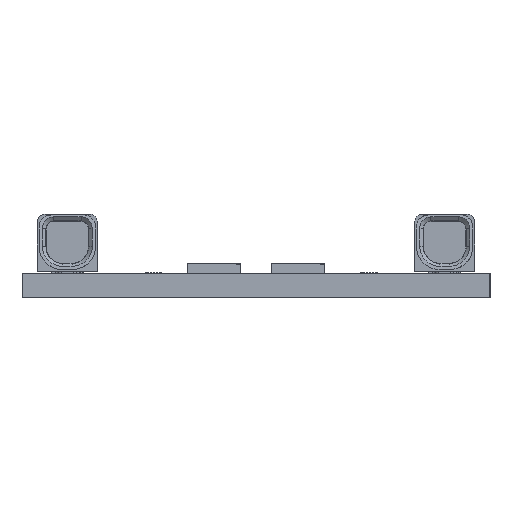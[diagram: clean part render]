
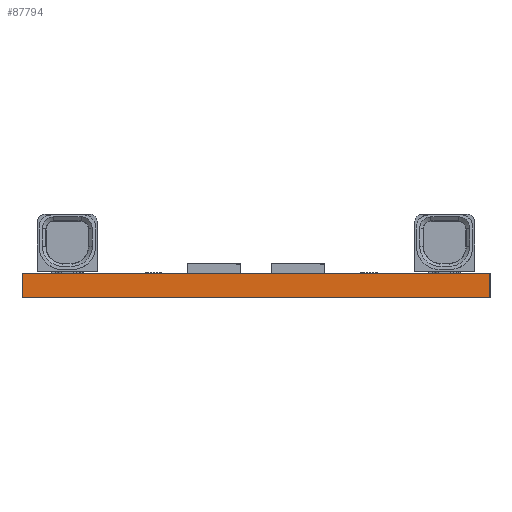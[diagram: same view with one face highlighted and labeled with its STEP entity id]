
A CAD part, left-side view. The second image highlights one B-rep face of the part: STEP entity #87794.
In plain terms, the highlighted planar face has unit normal (-1, 0, 0).
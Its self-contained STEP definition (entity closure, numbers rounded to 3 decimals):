
#1418 = CARTESIAN_POINT ( 'NONE',  ( -140., 15.5, 1.6 ) ) ;
#6130 = DIRECTION ( 'NONE',  ( 1., 0., 0. ) ) ;
#27479 = LINE ( 'NONE', #47788, #105355 ) ;
#35633 = VERTEX_POINT ( 'NONE', #147890 ) ;
#39753 = FACE_OUTER_BOUND ( 'NONE', #85012, .T. ) ;
#41781 = EDGE_CURVE ( 'NONE', #179673, #50317, #144373, .T. ) ;
#43553 = EDGE_CURVE ( 'NONE', #187429, #179673, #98455, .T. ) ;
#47788 = CARTESIAN_POINT ( 'NONE',  ( -140., -15.5, 1.6 ) ) ;
#50317 = VERTEX_POINT ( 'NONE', #162782 ) ;
#68289 = DIRECTION ( 'NONE',  ( 0., 0., -1. ) ) ;
#75084 = ORIENTED_EDGE ( 'NONE', *, *, #43553, .T. ) ;
#83591 = PLANE ( 'NONE',  #190983 ) ;
#84305 = DIRECTION ( 'NONE',  ( 0., 0., -1. ) ) ;
#85012 = EDGE_LOOP ( 'NONE', ( #100016, #168669, #168244, #75084 ) ) ;
#87794 = ADVANCED_FACE ( 'NONE', ( #39753 ), #83591, .F. ) ;
#93422 = DIRECTION ( 'NONE',  ( 0., -1., 0. ) ) ;
#98455 = LINE ( 'NONE', #101500, #185589 ) ;
#100016 = ORIENTED_EDGE ( 'NONE', *, *, #41781, .T. ) ;
#101500 = CARTESIAN_POINT ( 'NONE',  ( -140., 15.5, 1.6 ) ) ;
#103902 = EDGE_CURVE ( 'NONE', #35633, #50317, #130214, .T. ) ;
#105355 = VECTOR ( 'NONE', #184333, 1000. ) ;
#124268 = EDGE_CURVE ( 'NONE', #187429, #35633, #27479, .T. ) ;
#128169 = CARTESIAN_POINT ( 'NONE',  ( -140., -15.5, 1.6 ) ) ;
#130214 = LINE ( 'NONE', #128169, #191224 ) ;
#144373 = LINE ( 'NONE', #174849, #181528 ) ;
#147890 = CARTESIAN_POINT ( 'NONE',  ( -140., -15.5, 1.6 ) ) ;
#162074 = CARTESIAN_POINT ( 'NONE',  ( -140., 15.5, 0. ) ) ;
#162782 = CARTESIAN_POINT ( 'NONE',  ( -140., -15.5, 0. ) ) ;
#162996 = CARTESIAN_POINT ( 'NONE',  ( -140., -15.5, 1.6 ) ) ;
#168244 = ORIENTED_EDGE ( 'NONE', *, *, #124268, .F. ) ;
#168669 = ORIENTED_EDGE ( 'NONE', *, *, #103902, .F. ) ;
#174849 = CARTESIAN_POINT ( 'NONE',  ( -140., -15.5, 0. ) ) ;
#179673 = VERTEX_POINT ( 'NONE', #162074 ) ;
#179846 = DIRECTION ( 'NONE',  ( 0., 0., -1. ) ) ;
#181528 = VECTOR ( 'NONE', #93422, 1000. ) ;
#184333 = DIRECTION ( 'NONE',  ( 0., -1., 0. ) ) ;
#185589 = VECTOR ( 'NONE', #179846, 1000. ) ;
#187429 = VERTEX_POINT ( 'NONE', #1418 ) ;
#190983 = AXIS2_PLACEMENT_3D ( 'NONE', #162996, #6130, #68289 ) ;
#191224 = VECTOR ( 'NONE', #84305, 1000. ) ;
